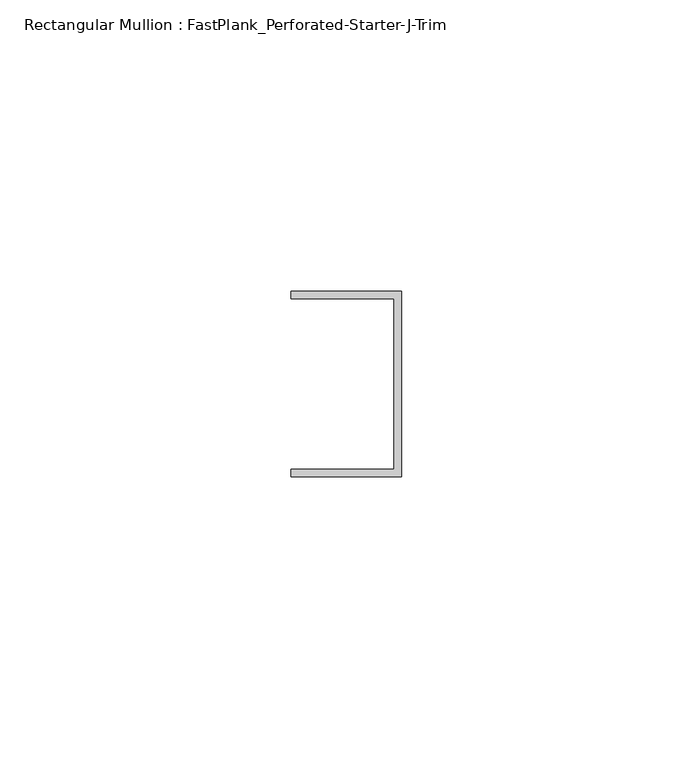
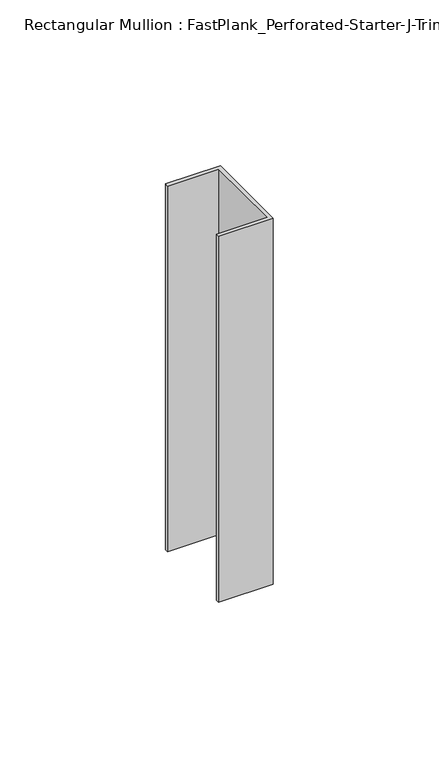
"""IFC4 building model written with IfcOpenShell, lengths in millimetres: member geometry, Rectangular Mullion : FastPlank_Perforated-Starter-J-Trim."""

from ifc_helpers import new_model, si_unit, frame, origin, place, context, project, spatial, polyline, outline, extrude, source, transform, mapped, element, save


def rectangular_mullion_fastplank_perforated_starter_j_trim_444acb71(model_context):
    return source(origin(), model_context, "Body", "SweptSolid", [
        extrude(outline(polyline([(0.0, 10.2620691), (0.0, -21.6412691), (-19.05, -21.6412691), (-19.05, -20.3412717), (-1.3000189, -20.3412717), (-1.3000189, 8.9620717), (-19.05, 8.9620717), (-19.05, 10.2620691), (0.0, 10.2620691)])), frame((0.0, 0.0, -134.6500192), z_axis=(0.0, 0.0, 1.0), x_axis=(1.0, 0.0, 0.0)), (0.0, 0.0, 1.0), 134.6500192),
    ])


if __name__ == "__main__":
    model = new_model("IFC4")
    model_context = context("Model", 3, world=origin())
    ifc_project = project(units=[si_unit("LENGTHUNIT", "METRE", prefix="MILLI")], contexts=[model_context])
    site = spatial("IfcSite", under=ifc_project)
    building = spatial("IfcBuilding", under=site)
    placement = place(None, origin())
    rectangular_mullion_fastplank_perforated_starter_j_trim_shape = rectangular_mullion_fastplank_perforated_starter_j_trim_444acb71(model_context)
    element("IfcMember", 1, ObjectType="Rectangular Mullion : FastPlank_Perforated-Starter-J-Trim", at=placement, inside=building, context=model_context, shape_type="MappedRepresentation", body=[
        mapped(rectangular_mullion_fastplank_perforated_starter_j_trim_shape, transform((0.0, 0.0, 0.0), x_axis=(1.0, 0.0, 0.0), y_axis=(0.0, 1.0, 0.0), z_axis=(0.0, 0.0, 1.0))),
    ])
    save(model, "model.ifc")
